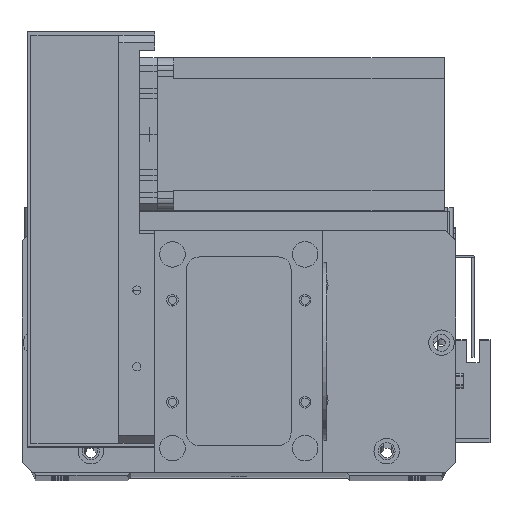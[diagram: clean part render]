
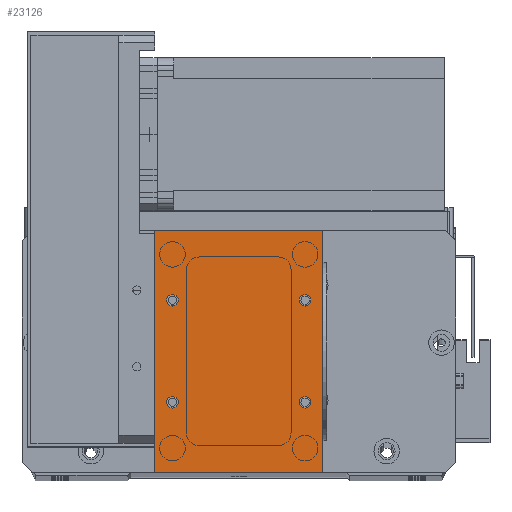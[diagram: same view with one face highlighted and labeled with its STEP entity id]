
A CAD part, top view. The second image highlights one B-rep face of the part: STEP entity #23126.
In plain terms, the highlighted planar face has unit normal (0, 0, 1).
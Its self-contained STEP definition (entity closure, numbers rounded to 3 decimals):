
#501 = CARTESIAN_POINT ( 'NONE',  ( 7., 27.5, 2. ) ) ;
#1073 = VERTEX_POINT ( 'NONE', #14845 ) ;
#1614 = EDGE_CURVE ( 'NONE', #31010, #30821, #21346, .T. ) ;
#1636 = CARTESIAN_POINT ( 'NONE',  ( 7., 27.5, 2. ) ) ;
#1709 = ORIENTED_EDGE ( 'NONE', *, *, #18591, .F. ) ;
#1782 = CIRCLE ( 'NONE', #12278, 2.25 ) ;
#1908 = EDGE_CURVE ( 'NONE', #4097, #1073, #7765, .T. ) ;
#2180 = CIRCLE ( 'NONE', #21503, 2.25 ) ;
#2605 = VERTEX_POINT ( 'NONE', #9251 ) ;
#2700 = AXIS2_PLACEMENT_3D ( 'NONE', #24963, #10124, #27457 ) ;
#2967 = DIRECTION ( 'NONE',  ( 1., 0., 0. ) ) ;
#3258 = FACE_BOUND ( 'NONE', #4431, .T. ) ;
#3290 = DIRECTION ( 'NONE',  ( -1., 0., 0. ) ) ;
#3850 = AXIS2_PLACEMENT_3D ( 'NONE', #26740, #11895, #29192 ) ;
#4047 = ORIENTED_EDGE ( 'NONE', *, *, #12540, .F. ) ;
#4094 = DIRECTION ( 'NONE',  ( 1., 0., 0. ) ) ;
#4097 = VERTEX_POINT ( 'NONE', #14930 ) ;
#4273 = ORIENTED_EDGE ( 'NONE', *, *, #15862, .F. ) ;
#4431 = EDGE_LOOP ( 'NONE', ( #24214, #21228 ) ) ;
#4624 = CARTESIAN_POINT ( 'NONE',  ( 0., 0., 2. ) ) ;
#4633 = AXIS2_PLACEMENT_3D ( 'NONE', #25916, #11048, #28374 ) ;
#4744 = ORIENTED_EDGE ( 'NONE', *, *, #11741, .T. ) ;
#5029 = EDGE_LOOP ( 'NONE', ( #16845, #4273 ) ) ;
#5414 = EDGE_CURVE ( 'NONE', #24160, #12602, #23873, .T. ) ;
#5964 = EDGE_CURVE ( 'NONE', #25281, #27860, #29614, .T. ) ;
#6249 = EDGE_LOOP ( 'NONE', ( #18177, #4744, #25829, #16827 ) ) ;
#6310 = AXIS2_PLACEMENT_3D ( 'NONE', #12329, #29628, #14826 ) ;
#7040 = AXIS2_PLACEMENT_3D ( 'NONE', #501, #17829, #2967 ) ;
#7137 = DIRECTION ( 'NONE',  ( -1., 0., 0. ) ) ;
#7367 = LINE ( 'NONE', #20636, #13209 ) ;
#7765 = CIRCLE ( 'NONE', #26006, 2.25 ) ;
#8440 = EDGE_CURVE ( 'NONE', #27860, #25281, #1782, .T. ) ;
#9021 = CARTESIAN_POINT ( 'NONE',  ( 4.75, 27.5, 2. ) ) ;
#9251 = CARTESIAN_POINT ( 'NONE',  ( 66., 0., 2. ) ) ;
#9306 = VECTOR ( 'NONE', #9635, 1000. ) ;
#9635 = DIRECTION ( 'NONE',  ( 1., 0., 0. ) ) ;
#9764 = CARTESIAN_POINT ( 'NONE',  ( 9.25, 27.5, 2. ) ) ;
#10124 = DIRECTION ( 'NONE',  ( 0., 0., 1. ) ) ;
#10747 = ORIENTED_EDGE ( 'NONE', *, *, #1908, .F. ) ;
#11048 = DIRECTION ( 'NONE',  ( 0., 0., 1. ) ) ;
#11354 = LINE ( 'NONE', #16582, #30302 ) ;
#11741 = EDGE_CURVE ( 'NONE', #12602, #2605, #28287, .T. ) ;
#11895 = DIRECTION ( 'NONE',  ( 0., 0., 1. ) ) ;
#12237 = VERTEX_POINT ( 'NONE', #9764 ) ;
#12278 = AXIS2_PLACEMENT_3D ( 'NONE', #29410, #14609, #31909 ) ;
#12329 = CARTESIAN_POINT ( 'NONE',  ( 59., 67.5, 2. ) ) ;
#12540 = EDGE_CURVE ( 'NONE', #1073, #4097, #21272, .T. ) ;
#12602 = VERTEX_POINT ( 'NONE', #31075 ) ;
#13209 = VECTOR ( 'NONE', #3290, 1000. ) ;
#13315 = CARTESIAN_POINT ( 'NONE',  ( 61.25, 27.5, 2. ) ) ;
#13601 = CARTESIAN_POINT ( 'NONE',  ( 7., 67.5, 2. ) ) ;
#13701 = ORIENTED_EDGE ( 'NONE', *, *, #1614, .F. ) ;
#13917 = EDGE_CURVE ( 'NONE', #12237, #31636, #2180, .T. ) ;
#14228 = DIRECTION ( 'NONE',  ( 0., 1., 0. ) ) ;
#14609 = DIRECTION ( 'NONE',  ( 0., 0., 1. ) ) ;
#14826 = DIRECTION ( 'NONE',  ( 1., 0., 0. ) ) ;
#14845 = CARTESIAN_POINT ( 'NONE',  ( 4.75, 67.5, 2. ) ) ;
#14930 = CARTESIAN_POINT ( 'NONE',  ( 9.25, 67.5, 2. ) ) ;
#15034 = CARTESIAN_POINT ( 'NONE',  ( 56.75, 27.5, 2. ) ) ;
#15862 = EDGE_CURVE ( 'NONE', #31636, #12237, #17195, .T. ) ;
#16083 = DIRECTION ( 'NONE',  ( 1., 0., 0. ) ) ;
#16458 = VERTEX_POINT ( 'NONE', #27767 ) ;
#16582 = CARTESIAN_POINT ( 'NONE',  ( 66., 0., 2. ) ) ;
#16747 = EDGE_CURVE ( 'NONE', #2605, #16458, #11354, .T. ) ;
#16827 = ORIENTED_EDGE ( 'NONE', *, *, #30932, .T. ) ;
#16845 = ORIENTED_EDGE ( 'NONE', *, *, #13917, .F. ) ;
#16998 = PLANE ( 'NONE',  #29888 ) ;
#17195 = CIRCLE ( 'NONE', #7040, 2.25 ) ;
#17219 = FACE_BOUND ( 'NONE', #5029, .T. ) ;
#17255 = VECTOR ( 'NONE', #22084, 1000. ) ;
#17829 = DIRECTION ( 'NONE',  ( 0., 0., 1. ) ) ;
#18177 = ORIENTED_EDGE ( 'NONE', *, *, #5414, .T. ) ;
#18591 = EDGE_CURVE ( 'NONE', #30821, #31010, #20108, .T. ) ;
#18964 = DIRECTION ( 'NONE',  ( 0., 0., 1. ) ) ;
#19103 = CARTESIAN_POINT ( 'NONE',  ( 0., 95., 2. ) ) ;
#20108 = CIRCLE ( 'NONE', #6310, 2.25 ) ;
#20636 = CARTESIAN_POINT ( 'NONE',  ( 0., 95., 2. ) ) ;
#21228 = ORIENTED_EDGE ( 'NONE', *, *, #8440, .F. ) ;
#21272 = CIRCLE ( 'NONE', #4633, 2.25 ) ;
#21346 = CIRCLE ( 'NONE', #2700, 2.25 ) ;
#21503 = AXIS2_PLACEMENT_3D ( 'NONE', #1636, #18964, #4094 ) ;
#21978 = DIRECTION ( 'NONE',  ( 0., 0., -1. ) ) ;
#22084 = DIRECTION ( 'NONE',  ( 0., -1., 0. ) ) ;
#23059 = FACE_BOUND ( 'NONE', #23070, .T. ) ;
#23070 = EDGE_LOOP ( 'NONE', ( #10747, #4047 ) ) ;
#23126 = ADVANCED_FACE ( 'NONE', ( #23059, #23843, #3258, #17219, #28853 ), #16998, .F. ) ;
#23843 = FACE_BOUND ( 'NONE', #26979, .T. ) ;
#23873 = LINE ( 'NONE', #31941, #17255 ) ;
#24160 = VERTEX_POINT ( 'NONE', #19103 ) ;
#24214 = ORIENTED_EDGE ( 'NONE', *, *, #5964, .F. ) ;
#24963 = CARTESIAN_POINT ( 'NONE',  ( 59., 67.5, 2. ) ) ;
#25281 = VERTEX_POINT ( 'NONE', #13315 ) ;
#25829 = ORIENTED_EDGE ( 'NONE', *, *, #16747, .T. ) ;
#25916 = CARTESIAN_POINT ( 'NONE',  ( 7., 67.5, 2. ) ) ;
#26006 = AXIS2_PLACEMENT_3D ( 'NONE', #13601, #30903, #16083 ) ;
#26740 = CARTESIAN_POINT ( 'NONE',  ( 59., 27.5, 2. ) ) ;
#26979 = EDGE_LOOP ( 'NONE', ( #1709, #13701 ) ) ;
#27457 = DIRECTION ( 'NONE',  ( 1., 0., 0. ) ) ;
#27767 = CARTESIAN_POINT ( 'NONE',  ( 66., 95., 2. ) ) ;
#27860 = VERTEX_POINT ( 'NONE', #15034 ) ;
#28287 = LINE ( 'NONE', #29435, #9306 ) ;
#28374 = DIRECTION ( 'NONE',  ( 1., 0., 0. ) ) ;
#28437 = CARTESIAN_POINT ( 'NONE',  ( 56.75, 67.5, 2. ) ) ;
#28853 = FACE_OUTER_BOUND ( 'NONE', #6249, .T. ) ;
#29192 = DIRECTION ( 'NONE',  ( 1., 0., 0. ) ) ;
#29410 = CARTESIAN_POINT ( 'NONE',  ( 59., 27.5, 2. ) ) ;
#29435 = CARTESIAN_POINT ( 'NONE',  ( 0., 0., 2. ) ) ;
#29614 = CIRCLE ( 'NONE', #3850, 2.25 ) ;
#29628 = DIRECTION ( 'NONE',  ( 0., 0., 1. ) ) ;
#29725 = CARTESIAN_POINT ( 'NONE',  ( 61.25, 67.5, 2. ) ) ;
#29888 = AXIS2_PLACEMENT_3D ( 'NONE', #4624, #21978, #7137 ) ;
#30302 = VECTOR ( 'NONE', #14228, 1000. ) ;
#30821 = VERTEX_POINT ( 'NONE', #29725 ) ;
#30903 = DIRECTION ( 'NONE',  ( 0., 0., 1. ) ) ;
#30932 = EDGE_CURVE ( 'NONE', #16458, #24160, #7367, .T. ) ;
#31010 = VERTEX_POINT ( 'NONE', #28437 ) ;
#31075 = CARTESIAN_POINT ( 'NONE',  ( 0., 0., 2. ) ) ;
#31636 = VERTEX_POINT ( 'NONE', #9021 ) ;
#31909 = DIRECTION ( 'NONE',  ( 1., 0., 0. ) ) ;
#31941 = CARTESIAN_POINT ( 'NONE',  ( 0., 0., 2. ) ) ;
